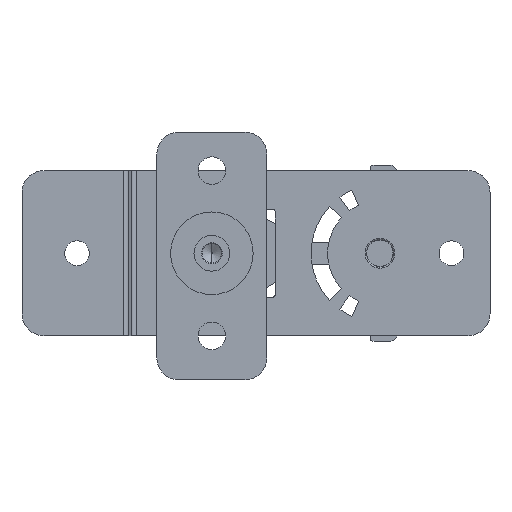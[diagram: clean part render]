
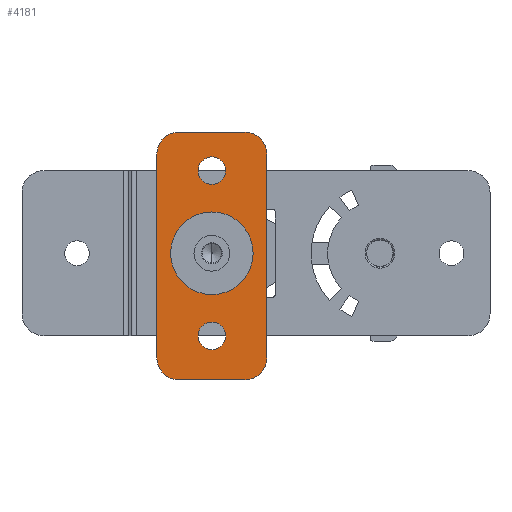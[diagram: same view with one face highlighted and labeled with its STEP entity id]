
A CAD part, front view. The second image highlights one B-rep face of the part: STEP entity #4181.
In plain terms, the highlighted planar face has unit normal (0, -1, 0).
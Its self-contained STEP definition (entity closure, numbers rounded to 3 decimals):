
#1 = DIRECTION ( 'NONE',  ( 0., 1., 0. ) ) ;
#9 = CIRCLE ( 'NONE', #200, 4. ) ;
#56 = CARTESIAN_POINT ( 'NONE',  ( -6., -2.4, -19. ) ) ;
#67 = VERTEX_POINT ( 'NONE', #3533 ) ;
#89 = CARTESIAN_POINT ( 'NONE',  ( 0., -2.4, -15. ) ) ;
#105 = CARTESIAN_POINT ( 'NONE',  ( -6., -2.4, -23. ) ) ;
#200 = AXIS2_PLACEMENT_3D ( 'NONE', #2181, #4039, #315 ) ;
#315 = DIRECTION ( 'NONE',  ( 0., 0., 1. ) ) ;
#337 = CARTESIAN_POINT ( 'NONE',  ( 10., -2.4, -19. ) ) ;
#347 = EDGE_CURVE ( 'NONE', #4517, #5145, #925, .T. ) ;
#388 = DIRECTION ( 'NONE',  ( 0., 0., 1. ) ) ;
#419 = AXIS2_PLACEMENT_3D ( 'NONE', #4074, #5930, #1750 ) ;
#497 = AXIS2_PLACEMENT_3D ( 'NONE', #3710, #3678, #5050 ) ;
#606 = AXIS2_PLACEMENT_3D ( 'NONE', #56, #1, #1966 ) ;
#643 = EDGE_LOOP ( 'NONE', ( #5110, #2973 ) ) ;
#737 = AXIS2_PLACEMENT_3D ( 'NONE', #1873, #3732, #4707 ) ;
#762 = CARTESIAN_POINT ( 'NONE',  ( -10., -2.4, -19. ) ) ;
#798 = LINE ( 'NONE', #1232, #4043 ) ;
#838 = ORIENTED_EDGE ( 'NONE', *, *, #2465, .T. ) ;
#883 = DIRECTION ( 'NONE',  ( 0., 0., 1. ) ) ;
#907 = CIRCLE ( 'NONE', #497, 4. ) ;
#925 = CIRCLE ( 'NONE', #2314, 2.5 ) ;
#946 = EDGE_CURVE ( 'NONE', #1935, #1186, #4545, .T. ) ;
#958 = CARTESIAN_POINT ( 'NONE',  ( 0., -2.4, 17.5 ) ) ;
#1118 = CARTESIAN_POINT ( 'NONE',  ( 0., -2.4, -15. ) ) ;
#1186 = VERTEX_POINT ( 'NONE', #1423 ) ;
#1232 = CARTESIAN_POINT ( 'NONE',  ( 10., -2.4, -19. ) ) ;
#1367 = CARTESIAN_POINT ( 'NONE',  ( 0., -2.4, -12.5 ) ) ;
#1423 = CARTESIAN_POINT ( 'NONE',  ( -10., -2.4, 18. ) ) ;
#1520 = VERTEX_POINT ( 'NONE', #4537 ) ;
#1521 = CARTESIAN_POINT ( 'NONE',  ( -6., -2.4, 18. ) ) ;
#1540 = EDGE_CURVE ( 'NONE', #5271, #2321, #9, .T. ) ;
#1619 = CARTESIAN_POINT ( 'NONE',  ( -6., -2.4, 22. ) ) ;
#1750 = DIRECTION ( 'NONE',  ( 0., 0., -1. ) ) ;
#1781 = EDGE_CURVE ( 'NONE', #2113, #2321, #798, .T. ) ;
#1873 = CARTESIAN_POINT ( 'NONE',  ( 0., -2.4, 15. ) ) ;
#1935 = VERTEX_POINT ( 'NONE', #762 ) ;
#1966 = DIRECTION ( 'NONE',  ( 0., 0., 1. ) ) ;
#2113 = VERTEX_POINT ( 'NONE', #337 ) ;
#2181 = CARTESIAN_POINT ( 'NONE',  ( 6., -2.4, 18. ) ) ;
#2193 = ORIENTED_EDGE ( 'NONE', *, *, #2780, .F. ) ;
#2279 = CARTESIAN_POINT ( 'NONE',  ( 0., -2.4, 15. ) ) ;
#2314 = AXIS2_PLACEMENT_3D ( 'NONE', #1118, #2994, #4854 ) ;
#2321 = VERTEX_POINT ( 'NONE', #3426 ) ;
#2393 = VECTOR ( 'NONE', #388, 1000. ) ;
#2465 = EDGE_CURVE ( 'NONE', #5145, #4517, #3640, .T. ) ;
#2486 = AXIS2_PLACEMENT_3D ( 'NONE', #1521, #3904, #3028 ) ;
#2502 = LINE ( 'NONE', #105, #3848 ) ;
#2578 = ORIENTED_EDGE ( 'NONE', *, *, #5116, .F. ) ;
#2644 = VECTOR ( 'NONE', #4009, 1000. ) ;
#2685 = LINE ( 'NONE', #1619, #2644 ) ;
#2725 = ORIENTED_EDGE ( 'NONE', *, *, #347, .T. ) ;
#2780 = EDGE_CURVE ( 'NONE', #4303, #1935, #907, .T. ) ;
#2783 = ORIENTED_EDGE ( 'NONE', *, *, #946, .F. ) ;
#2804 = EDGE_CURVE ( 'NONE', #1520, #4804, #5986, .T. ) ;
#2875 = CIRCLE ( 'NONE', #2486, 4. ) ;
#2934 = CARTESIAN_POINT ( 'NONE',  ( -6., -2.4, -23. ) ) ;
#2973 = ORIENTED_EDGE ( 'NONE', *, *, #2804, .T. ) ;
#2994 = DIRECTION ( 'NONE',  ( 0., 1., 0. ) ) ;
#3024 = EDGE_CURVE ( 'NONE', #1186, #67, #2875, .T. ) ;
#3028 = DIRECTION ( 'NONE',  ( 0., 0., 1. ) ) ;
#3185 = ORIENTED_EDGE ( 'NONE', *, *, #6037, .T. ) ;
#3219 = FACE_BOUND ( 'NONE', #3495, .T. ) ;
#3273 = CIRCLE ( 'NONE', #419, 4. ) ;
#3292 = ORIENTED_EDGE ( 'NONE', *, *, #4107, .T. ) ;
#3296 = CARTESIAN_POINT ( 'NONE',  ( 6., -2.4, -23. ) ) ;
#3426 = CARTESIAN_POINT ( 'NONE',  ( 10., -2.4, 18. ) ) ;
#3495 = EDGE_LOOP ( 'NONE', ( #2725, #838 ) ) ;
#3528 = DIRECTION ( 'NONE',  ( 0., 0., 1. ) ) ;
#3533 = CARTESIAN_POINT ( 'NONE',  ( -6., -2.4, 22. ) ) ;
#3640 = CIRCLE ( 'NONE', #4321, 2.5 ) ;
#3678 = DIRECTION ( 'NONE',  ( 0., 1., 0. ) ) ;
#3710 = CARTESIAN_POINT ( 'NONE',  ( -6., -2.4, -19. ) ) ;
#3714 = ORIENTED_EDGE ( 'NONE', *, *, #1540, .F. ) ;
#3732 = DIRECTION ( 'NONE',  ( 0., 1., 0. ) ) ;
#3820 = DIRECTION ( 'NONE',  ( 0., 0., 1. ) ) ;
#3848 = VECTOR ( 'NONE', #5290, 1000. ) ;
#3904 = DIRECTION ( 'NONE',  ( 0., 1., 0. ) ) ;
#4003 = FACE_OUTER_BOUND ( 'NONE', #5043, .T. ) ;
#4009 = DIRECTION ( 'NONE',  ( 1., 0., 0. ) ) ;
#4039 = DIRECTION ( 'NONE',  ( 0., 1., 0. ) ) ;
#4043 = VECTOR ( 'NONE', #3528, 1000. ) ;
#4074 = CARTESIAN_POINT ( 'NONE',  ( 6., -2.4, -19. ) ) ;
#4107 = EDGE_CURVE ( 'NONE', #4481, #2113, #3273, .T. ) ;
#4181 = ADVANCED_FACE ( 'NONE', ( #3219, #5084, #4003 ), #5441, .F. ) ;
#4275 = CIRCLE ( 'NONE', #737, 2.5 ) ;
#4303 = VERTEX_POINT ( 'NONE', #2934 ) ;
#4321 = AXIS2_PLACEMENT_3D ( 'NONE', #89, #6062, #3820 ) ;
#4481 = VERTEX_POINT ( 'NONE', #3296 ) ;
#4502 = EDGE_CURVE ( 'NONE', #4804, #1520, #4275, .T. ) ;
#4517 = VERTEX_POINT ( 'NONE', #1367 ) ;
#4533 = DIRECTION ( 'NONE',  ( 0., 1., 0. ) ) ;
#4537 = CARTESIAN_POINT ( 'NONE',  ( 0., -2.4, 12.5 ) ) ;
#4545 = LINE ( 'NONE', #5030, #2393 ) ;
#4610 = CARTESIAN_POINT ( 'NONE',  ( 6., -2.4, 22. ) ) ;
#4707 = DIRECTION ( 'NONE',  ( 0., 0., 1. ) ) ;
#4804 = VERTEX_POINT ( 'NONE', #958 ) ;
#4817 = ORIENTED_EDGE ( 'NONE', *, *, #3024, .F. ) ;
#4854 = DIRECTION ( 'NONE',  ( 0., 0., 1. ) ) ;
#5030 = CARTESIAN_POINT ( 'NONE',  ( -10., -2.4, -19. ) ) ;
#5043 = EDGE_LOOP ( 'NONE', ( #2193, #3185, #3292, #5191, #3714, #2578, #4817, #2783 ) ) ;
#5050 = DIRECTION ( 'NONE',  ( 0., 0., 1. ) ) ;
#5084 = FACE_BOUND ( 'NONE', #643, .T. ) ;
#5110 = ORIENTED_EDGE ( 'NONE', *, *, #4502, .T. ) ;
#5112 = AXIS2_PLACEMENT_3D ( 'NONE', #2279, #4533, #883 ) ;
#5116 = EDGE_CURVE ( 'NONE', #67, #5271, #2685, .T. ) ;
#5145 = VERTEX_POINT ( 'NONE', #5908 ) ;
#5191 = ORIENTED_EDGE ( 'NONE', *, *, #1781, .T. ) ;
#5271 = VERTEX_POINT ( 'NONE', #4610 ) ;
#5290 = DIRECTION ( 'NONE',  ( 1., 0., 0. ) ) ;
#5441 = PLANE ( 'NONE',  #606 ) ;
#5908 = CARTESIAN_POINT ( 'NONE',  ( 0., -2.4, -17.5 ) ) ;
#5930 = DIRECTION ( 'NONE',  ( 0., -1., 0. ) ) ;
#5986 = CIRCLE ( 'NONE', #5112, 2.5 ) ;
#6037 = EDGE_CURVE ( 'NONE', #4303, #4481, #2502, .T. ) ;
#6062 = DIRECTION ( 'NONE',  ( 0., 1., 0. ) ) ;
